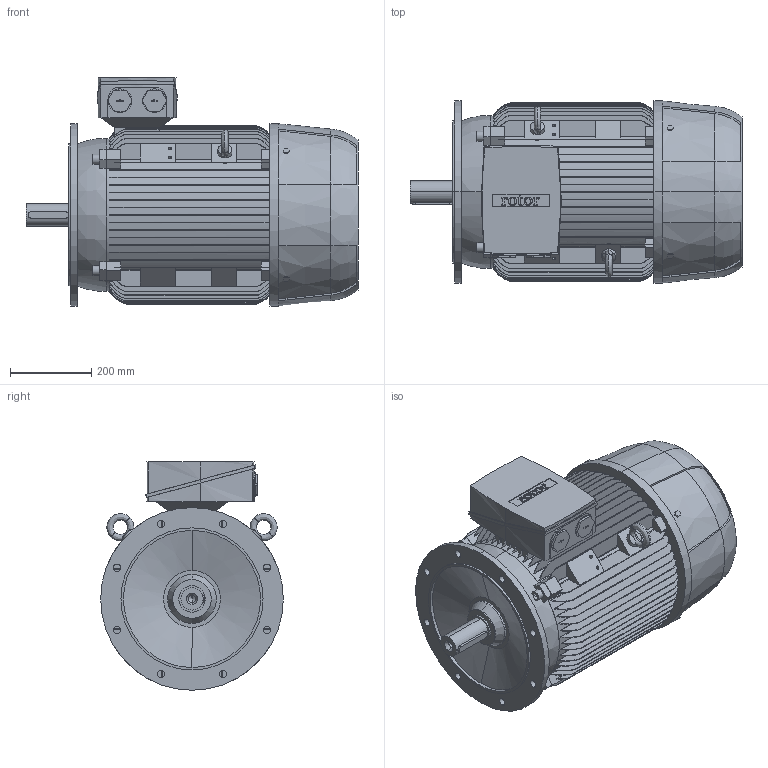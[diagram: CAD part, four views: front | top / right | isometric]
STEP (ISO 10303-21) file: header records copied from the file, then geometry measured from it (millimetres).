
FILE_DESCRIPTION (( 'STEP AP214' ), '1' );
FILE_NAME ('6RN225M02E42 IM3041.STEP', '2017-01-12T11:18:38', ( 'rbc_ict' ), ( 'Microsoft' ), 'SwSTEP 2.0', 'SolidWorks 2015', '' );
FILE_SCHEMA (( 'AUTOMOTIVE_DESIGN' ));
Length unit declared in the file: millimetre
Products named in the file (1): 6RN225M02E42 IM3041
Bounding box: 818 x 450 x 563 mm (x, y, z)
Volume: 92399691 mm3; surface area: 3020668 mm2
Topology: 1 solids, 1 shells, 953 faces, 2711 edges, 1789 vertices
Faces by surface type: plane 541, cylinder 199, bspline 194, cone 19
Entity records: 49815 total; most frequent: CARTESIAN_POINT 17070, ORIENTED_EDGE 5418, DIRECTION 4018, EDGE_CURVE 2709, VERTEX_POINT 1789, VECTOR 1508, LINE 1508, AXIS2_PLACEMENT_3D 1255
